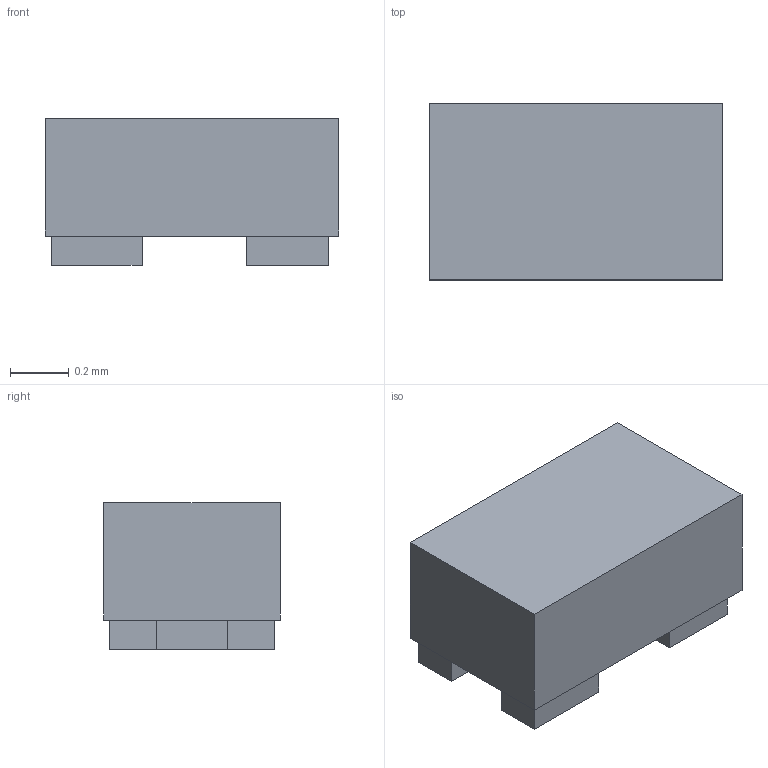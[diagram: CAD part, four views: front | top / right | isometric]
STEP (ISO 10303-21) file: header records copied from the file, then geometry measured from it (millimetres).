
FILE_DESCRIPTION(('FreeCAD Model'),'2;1');
FILE_NAME('/var/www/3D/0T/1395722.1.3.stp','2021-01-18T11:18:22',( 'Author'),(''),'Open CASCADE STEP processor 6.9','FreeCAD','Unknown' );
FILE_SCHEMA(('AUTOMOTIVE_DESIGN { 1 0 10303 214 1 1 1 1 }'));
Length unit declared in the file: millimetre
Products named in the file (3): ASSEMBLY; Body; Pins
Assembly tree (2 placements, depth 2):
  ASSEMBLY
    Body
    Pins
Bounding box: 1 x 0.6 x 0.5 mm (x, y, z)
Volume: 0.3 mm3; surface area: 3.3 mm2
Topology: 4 solids, 4 shells, 24 faces, 48 edges, 32 vertices
Faces by surface type: plane 24
Entity records: 1316 total; most frequent: CARTESIAN_POINT 203, DIRECTION 198, LINE 144, VECTOR 144, ORIENTED_EDGE 96, PCURVE 96, DEFINITIONAL_REPRESENTATION 96, EDGE_CURVE 48
